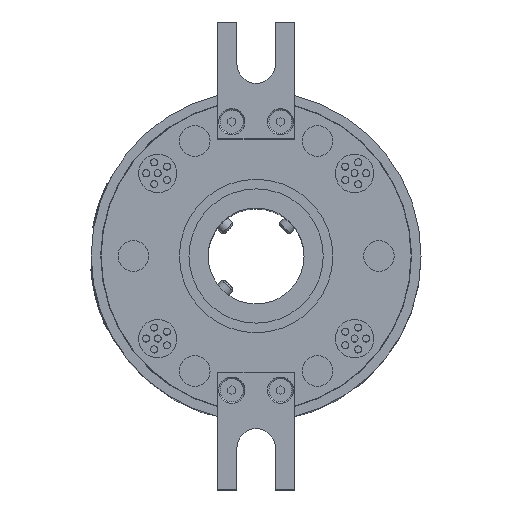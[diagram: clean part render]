
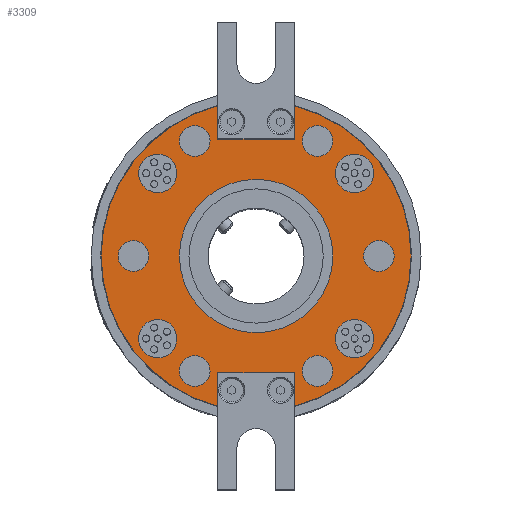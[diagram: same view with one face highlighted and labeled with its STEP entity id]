
A CAD part, top view. The second image highlights one B-rep face of the part: STEP entity #3309.
In plain terms, the highlighted planar face has unit normal (0, 0, 1).
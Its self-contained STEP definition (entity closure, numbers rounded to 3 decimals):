
#465=FACE_BOUND('',#5786,.T.);
#466=FACE_BOUND('',#5787,.T.);
#467=FACE_BOUND('',#5788,.T.);
#468=FACE_BOUND('',#5789,.T.);
#469=FACE_BOUND('',#5790,.T.);
#470=FACE_BOUND('',#5791,.T.);
#471=FACE_BOUND('',#5792,.T.);
#472=FACE_BOUND('',#5793,.T.);
#473=FACE_BOUND('',#5794,.T.);
#474=FACE_BOUND('',#5795,.T.);
#475=FACE_BOUND('',#5796,.T.);
#476=FACE_BOUND('',#5797,.T.);
#1332=LINE('',#26593,#1716);
#1338=LINE('',#26606,#1722);
#1343=LINE('',#26614,#1727);
#1410=LINE('',#26782,#1794);
#1416=LINE('',#26795,#1800);
#1421=LINE('',#26803,#1805);
#1716=VECTOR('',#19358,1.);
#1722=VECTOR('',#19366,1.);
#1727=VECTOR('',#19373,1.);
#1794=VECTOR('',#19536,1.);
#1800=VECTOR('',#19544,1.);
#1805=VECTOR('',#19551,1.);
#3309=ADVANCED_FACE('',(#465,#466,#467,#468,#469,#470,#471,#472,#473,#474,
#475,#476),#3792,.T.);
#3792=PLANE('',#18519);
#5786=EDGE_LOOP('',(#10884));
#5787=EDGE_LOOP('',(#10885));
#5788=EDGE_LOOP('',(#10886));
#5789=EDGE_LOOP('',(#10887));
#5790=EDGE_LOOP('',(#10888));
#5791=EDGE_LOOP('',(#10889));
#5792=EDGE_LOOP('',(#10890));
#5793=EDGE_LOOP('',(#10891));
#5794=EDGE_LOOP('',(#10892));
#5795=EDGE_LOOP('',(#10893));
#5796=EDGE_LOOP('',(#10894));
#5797=EDGE_LOOP('',(#10895,#10896,#10897,#10898,#10899,#10900,#10901,#10902));
#6230=CIRCLE('',#18486,4.);
#6232=CIRCLE('',#18489,4.);
#6234=CIRCLE('',#18492,4.);
#6236=CIRCLE('',#18495,4.);
#6238=CIRCLE('',#18498,4.);
#6240=CIRCLE('',#18501,4.);
#6241=CIRCLE('',#18503,40.4);
#6242=CIRCLE('',#18504,40.4);
#6244=CIRCLE('',#18507,5.);
#6246=CIRCLE('',#18510,5.);
#6248=CIRCLE('',#18513,5.);
#6250=CIRCLE('',#18516,5.);
#6251=CIRCLE('',#18518,20.);
#10884=ORIENTED_EDGE('',*,*,#15448,.T.);
#10885=ORIENTED_EDGE('',*,*,#15447,.F.);
#10886=ORIENTED_EDGE('',*,*,#15445,.F.);
#10887=ORIENTED_EDGE('',*,*,#15443,.F.);
#10888=ORIENTED_EDGE('',*,*,#15441,.F.);
#10889=ORIENTED_EDGE('',*,*,#15437,.T.);
#10890=ORIENTED_EDGE('',*,*,#15435,.T.);
#10891=ORIENTED_EDGE('',*,*,#15433,.T.);
#10892=ORIENTED_EDGE('',*,*,#15431,.T.);
#10893=ORIENTED_EDGE('',*,*,#15429,.F.);
#10894=ORIENTED_EDGE('',*,*,#15427,.F.);
#10895=ORIENTED_EDGE('',*,*,#13830,.F.);
#10896=ORIENTED_EDGE('',*,*,#15439,.F.);
#10897=ORIENTED_EDGE('',*,*,#13914,.F.);
#10898=ORIENTED_EDGE('',*,*,#13908,.F.);
#10899=ORIENTED_EDGE('',*,*,#13919,.F.);
#10900=ORIENTED_EDGE('',*,*,#15438,.F.);
#10901=ORIENTED_EDGE('',*,*,#13825,.F.);
#10902=ORIENTED_EDGE('',*,*,#13819,.F.);
#11463=VERTEX_POINT('',#22013);
#11464=VERTEX_POINT('',#22014);
#11467=VERTEX_POINT('',#22022);
#11468=VERTEX_POINT('',#22023);
#12021=VERTEX_POINT('',#26594);
#12022=VERTEX_POINT('',#26595);
#12082=VERTEX_POINT('',#26783);
#12083=VERTEX_POINT('',#26784);
#12941=VERTEX_POINT('',#38097);
#12943=VERTEX_POINT('',#38102);
#12945=VERTEX_POINT('',#38107);
#12947=VERTEX_POINT('',#38112);
#12949=VERTEX_POINT('',#38117);
#12951=VERTEX_POINT('',#38122);
#12953=VERTEX_POINT('',#38130);
#12955=VERTEX_POINT('',#38135);
#12957=VERTEX_POINT('',#38140);
#12959=VERTEX_POINT('',#38145);
#12960=VERTEX_POINT('',#38148);
#13819=EDGE_CURVE('',#12021,#12022,#1332,.T.);
#13825=EDGE_CURVE('',#12022,#11464,#1338,.T.);
#13830=EDGE_CURVE('',#11463,#12021,#1343,.T.);
#13908=EDGE_CURVE('',#12082,#12083,#1410,.T.);
#13914=EDGE_CURVE('',#12083,#11468,#1416,.T.);
#13919=EDGE_CURVE('',#11467,#12082,#1421,.T.);
#15427=EDGE_CURVE('',#12941,#12941,#6230,.T.);
#15429=EDGE_CURVE('',#12943,#12943,#6232,.T.);
#15431=EDGE_CURVE('',#12945,#12945,#6234,.T.);
#15433=EDGE_CURVE('',#12947,#12947,#6236,.T.);
#15435=EDGE_CURVE('',#12949,#12949,#6238,.T.);
#15437=EDGE_CURVE('',#12951,#12951,#6240,.T.);
#15438=EDGE_CURVE('',#11464,#11467,#6241,.T.);
#15439=EDGE_CURVE('',#11468,#11463,#6242,.T.);
#15441=EDGE_CURVE('',#12953,#12953,#6244,.T.);
#15443=EDGE_CURVE('',#12955,#12955,#6246,.T.);
#15445=EDGE_CURVE('',#12957,#12957,#6248,.T.);
#15447=EDGE_CURVE('',#12959,#12959,#6250,.T.);
#15448=EDGE_CURVE('',#12960,#12960,#6251,.T.);
#18486=AXIS2_PLACEMENT_3D('',#38096,#20829,#20830);
#18489=AXIS2_PLACEMENT_3D('',#38101,#20835,#20836);
#18492=AXIS2_PLACEMENT_3D('',#38106,#20841,#20842);
#18495=AXIS2_PLACEMENT_3D('',#38111,#20847,#20848);
#18498=AXIS2_PLACEMENT_3D('',#38116,#20853,#20854);
#18501=AXIS2_PLACEMENT_3D('',#38121,#20859,#20860);
#18503=AXIS2_PLACEMENT_3D('',#38124,#20863,#20864);
#18504=AXIS2_PLACEMENT_3D('',#38125,#20865,#20866);
#18507=AXIS2_PLACEMENT_3D('',#38129,#20871,#20872);
#18510=AXIS2_PLACEMENT_3D('',#38134,#20877,#20878);
#18513=AXIS2_PLACEMENT_3D('',#38139,#20883,#20884);
#18516=AXIS2_PLACEMENT_3D('',#38144,#20889,#20890);
#18518=AXIS2_PLACEMENT_3D('',#38147,#20893,#20894);
#18519=AXIS2_PLACEMENT_3D('',#38149,#20895,#20896);
#19358=DIRECTION('',(-1.,0.,0.));
#19366=DIRECTION('',(0.,-1.,0.));
#19373=DIRECTION('',(0.,1.,0.));
#19536=DIRECTION('',(1.,0.,0.));
#19544=DIRECTION('',(0.,1.,0.));
#19551=DIRECTION('',(0.,-1.,0.));
#20829=DIRECTION('',(0.,0.,1.));
#20830=DIRECTION('',(1.,0.,0.));
#20835=DIRECTION('',(0.,0.,1.));
#20836=DIRECTION('',(-1.,0.,0.));
#20841=DIRECTION('',(0.,0.,-1.));
#20842=DIRECTION('',(1.,0.,0.));
#20847=DIRECTION('',(0.,0.,-1.));
#20848=DIRECTION('',(-1.,0.,0.));
#20853=DIRECTION('',(0.,0.,-1.));
#20854=DIRECTION('',(-0.5,-0.866,0.));
#20859=DIRECTION('',(0.,0.,-1.));
#20860=DIRECTION('',(0.5,-0.866,0.));
#20863=DIRECTION('',(0.,0.,-1.));
#20864=DIRECTION('',(1.,0.,0.));
#20865=DIRECTION('',(0.,0.,-1.));
#20866=DIRECTION('',(1.,0.,0.));
#20871=DIRECTION('',(0.,0.,1.));
#20872=DIRECTION('',(1.,0.,0.));
#20877=DIRECTION('',(0.,0.,1.));
#20878=DIRECTION('',(1.,0.,0.));
#20883=DIRECTION('',(0.,0.,1.));
#20884=DIRECTION('',(1.,0.,0.));
#20889=DIRECTION('',(0.,0.,1.));
#20890=DIRECTION('',(1.,0.,0.));
#20893=DIRECTION('',(0.,0.,-1.));
#20894=DIRECTION('',(1.,0.,0.));
#20895=DIRECTION('',(0.,0.,1.));
#20896=DIRECTION('',(-1.,0.,0.));
#22013=CARTESIAN_POINT('',(10.,-39.143,132.));
#22014=CARTESIAN_POINT('',(-10.,-39.143,132.));
#22022=CARTESIAN_POINT('',(-10.,39.143,132.));
#22023=CARTESIAN_POINT('',(10.,39.143,132.));
#26593=CARTESIAN_POINT('',(0.,-30.5,132.));
#26594=CARTESIAN_POINT('',(10.,-30.5,132.));
#26595=CARTESIAN_POINT('',(-10.,-30.5,132.));
#26606=CARTESIAN_POINT('',(-10.,-45.75,132.));
#26614=CARTESIAN_POINT('',(10.,-45.75,132.));
#26782=CARTESIAN_POINT('',(0.,30.5,132.));
#26783=CARTESIAN_POINT('',(-10.,30.5,132.));
#26784=CARTESIAN_POINT('',(10.,30.5,132.));
#26795=CARTESIAN_POINT('',(10.,45.75,132.));
#26803=CARTESIAN_POINT('',(-10.,45.75,132.));
#38096=CARTESIAN_POINT('',(-16.,-30.,132.));
#38097=CARTESIAN_POINT('',(-12.,-30.,132.));
#38101=CARTESIAN_POINT('',(16.,30.,132.));
#38102=CARTESIAN_POINT('',(12.,30.,132.));
#38106=CARTESIAN_POINT('',(-16.,30.,132.));
#38107=CARTESIAN_POINT('',(-12.,30.,132.));
#38111=CARTESIAN_POINT('',(16.,-30.,132.));
#38112=CARTESIAN_POINT('',(12.,-30.,132.));
#38116=CARTESIAN_POINT('',(32.,0.,132.));
#38117=CARTESIAN_POINT('',(30.,-3.464,132.));
#38121=CARTESIAN_POINT('',(-32.,0.,132.));
#38122=CARTESIAN_POINT('',(-30.,-3.464,132.));
#38124=CARTESIAN_POINT('',(0.,0.,132.));
#38125=CARTESIAN_POINT('',(0.,0.,132.));
#38129=CARTESIAN_POINT('',(25.662,-21.533,132.));
#38130=CARTESIAN_POINT('',(30.662,-21.533,132.));
#38134=CARTESIAN_POINT('',(25.662,21.533,132.));
#38135=CARTESIAN_POINT('',(30.662,21.533,132.));
#38139=CARTESIAN_POINT('',(-25.662,21.533,132.));
#38140=CARTESIAN_POINT('',(-20.662,21.533,132.));
#38144=CARTESIAN_POINT('',(-25.662,-21.533,132.));
#38145=CARTESIAN_POINT('',(-20.662,-21.533,132.));
#38147=CARTESIAN_POINT('',(0.,0.,132.));
#38148=CARTESIAN_POINT('',(20.,0.,132.));
#38149=CARTESIAN_POINT('',(0.,0.,132.));
